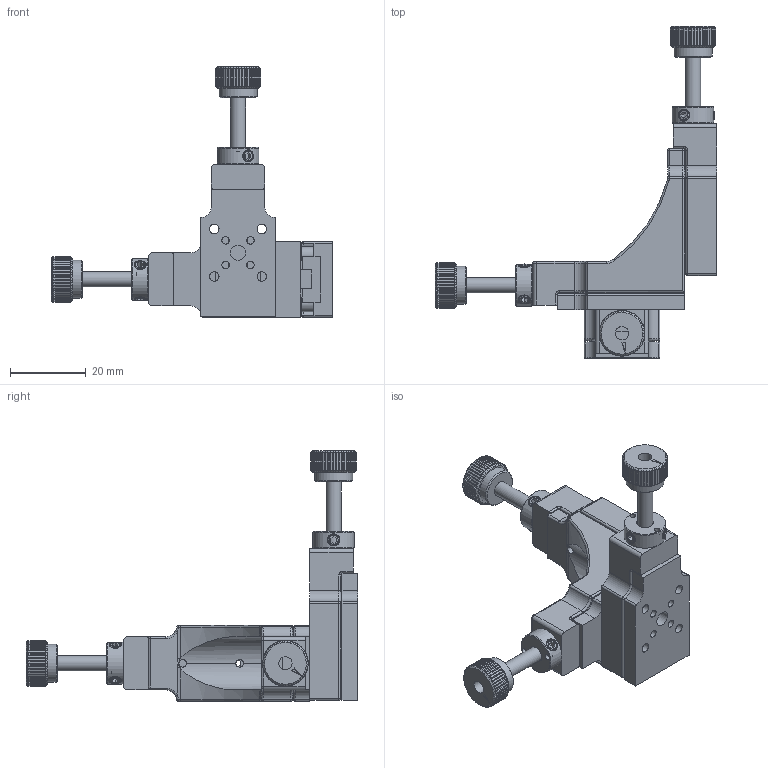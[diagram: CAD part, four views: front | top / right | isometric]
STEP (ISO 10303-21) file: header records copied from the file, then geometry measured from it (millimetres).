
FILE_DESCRIPTION (( 'STEP AP203' ), '1' );
FILE_NAME ('TCR20XYZ-05A.step', '2017-01-10T09:15:39', ( '¦K¬P' ), ( '' ), 'SwSTEP 2.0', 'SolidWorks 2012', '' );
FILE_SCHEMA (( 'CONFIG_CONTROL_DESIGN' ));
Length unit declared in the file: millimetre
Products named in the file (1): TCR20XYZ-05A
Bounding box: 74.22 x 87.37 x 65.97 mm (x, y, z)
Surface area: 18544.7 mm2 (no closed solid volume)
Topology: 0 solids, 40 shells, 917 faces, 2814 edges, 1882 vertices
Faces by surface type: plane 519, cylinder 298, cone 35, torus 28, sphere 22, bspline 15
Full cylindrical faces by diameter (mm): 1.5 x6, 2 x22, 2.5 x4, 3 x12, 3.5 x3, 4 x9, 4.7 x6, 10 x3, 11 x3
Entity records: 40233 total; most frequent: CARTESIAN_POINT 16412, ORIENTED_EDGE 4799, DIRECTION 4623, EDGE_CURVE 2654, VERTEX_POINT 1857, AXIS2_PLACEMENT_3D 1709, VECTOR 1205, LINE 1205
